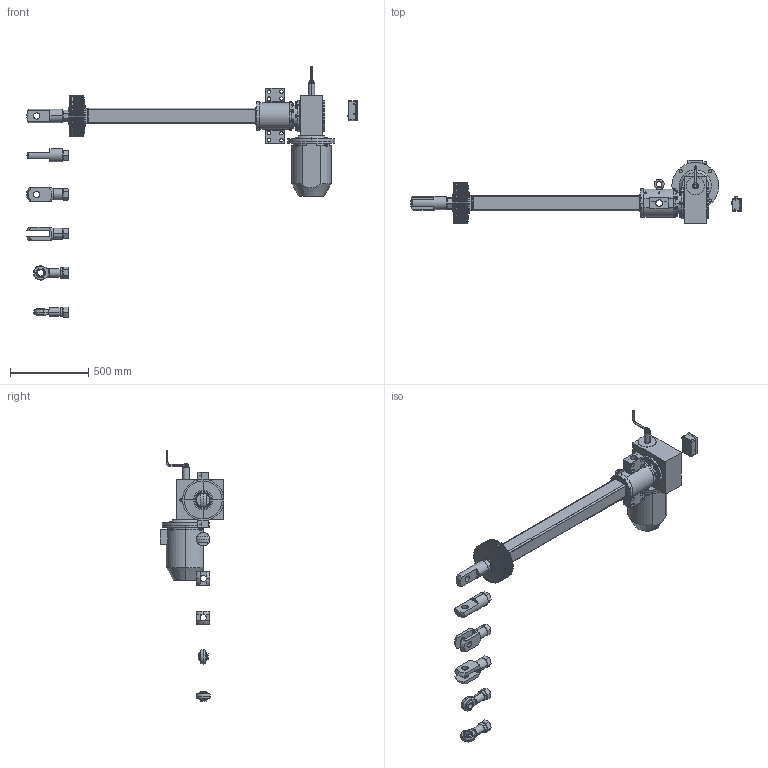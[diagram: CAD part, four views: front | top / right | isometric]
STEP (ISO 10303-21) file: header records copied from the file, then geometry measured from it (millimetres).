
FILE_DESCRIPTION (( 'STEP AP203' ), '1' );
FILE_NAME ('Ì4 6 900.STEP', '2016-12-22T08:30:23', ( '' ), ( '' ), 'SwSTEP 2.0', 'SolidWorks 2012', '' );
FILE_SCHEMA (( 'CONFIG_CONTROL_DESIGN' ));
Length unit declared in the file: millimetre
Products named in the file (9): ﾌ4 6 900; Ãîôð Ñ4_•®¤600; 迕 6; 苂 6; 迍 6; ﾁﾑﾏ; Ñ4 6 ïåðåä áàçà; ﾒ矜 6_900; ﾌ4 6 矜鈞
Assembly tree (11 placements, depth 2):
  ﾌ4 6 900
    ﾌ4 6 矜鈞
    ﾒ矜 6_900
    Ñ4 6 ïåðåä áàçà
    ﾁﾑﾏ
    迍 6  x2
    苂 6  x2
    迕 6  x2
    Ãîôð Ñ4_•®¤600
Bounding box: 2108 x 406 x 1596 mm (x, y, z)
Volume: 1598789.6 mm3; surface area: 6292885.4 mm2
Topology: 1 solids, 211 shells, 1899 faces, 5158 edges, 3490 vertices
Faces by surface type: plane 756, cylinder 603, cone 404, sphere 64, torus 60, bspline 12
Entity records: 60711 total; most frequent: CARTESIAN_POINT 14523, DIRECTION 10102, ORIENTED_EDGE 8162, EDGE_CURVE 4800, AXIS2_PLACEMENT_3D 4049, VERTEX_POINT 3272, CIRCLE 2253, EDGE_LOOP 2120
